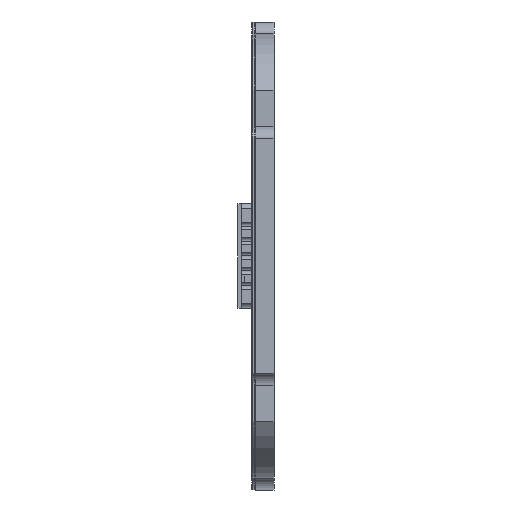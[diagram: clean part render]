
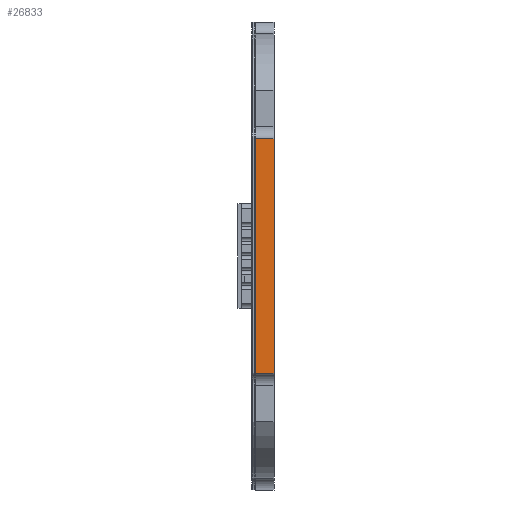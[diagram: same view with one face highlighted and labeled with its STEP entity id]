
A CAD part, left-side view. The second image highlights one B-rep face of the part: STEP entity #26833.
In plain terms, the highlighted planar face has unit normal (-1, 0, 0).
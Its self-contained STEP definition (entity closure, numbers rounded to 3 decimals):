
#3037 = AXIS2_PLACEMENT_3D ( 'NONE', #4963, #77893, #34396 ) ;
#3792 = EDGE_CURVE ( 'NONE', #46501, #80155, #48763, .T. ) ;
#4303 = CARTESIAN_POINT ( 'NONE',  ( -19.155, 1.255, 7.815 ) ) ;
#4331 = EDGE_CURVE ( 'NONE', #42579, #46501, #61146, .T. ) ;
#4963 = CARTESIAN_POINT ( 'NONE',  ( -19.155, 1.255, 7.815 ) ) ;
#8296 = FACE_OUTER_BOUND ( 'NONE', #64165, .T. ) ;
#10190 = DIRECTION ( 'NONE',  ( 0., 0., 1. ) ) ;
#12381 = VECTOR ( 'NONE', #55050, 1000. ) ;
#12632 = EDGE_CURVE ( 'NONE', #42579, #59010, #21925, .T. ) ;
#16914 = CARTESIAN_POINT ( 'NONE',  ( -19.155, 1.255, -7.815 ) ) ;
#21925 = LINE ( 'NONE', #16914, #58202 ) ;
#23251 = LINE ( 'NONE', #53615, #61802 ) ;
#24212 = DIRECTION ( 'NONE',  ( 0., -1., 0. ) ) ;
#25633 = CARTESIAN_POINT ( 'NONE',  ( -19.155, 1.255, 7.815 ) ) ;
#26833 = ADVANCED_FACE ( 'NONE', ( #8296 ), #70541, .F. ) ;
#29379 = VECTOR ( 'NONE', #54531, 1000. ) ;
#34396 = DIRECTION ( 'NONE',  ( 0., 0., -1. ) ) ;
#42579 = VERTEX_POINT ( 'NONE', #65584 ) ;
#43447 = EDGE_CURVE ( 'NONE', #59010, #80155, #23251, .T. ) ;
#44210 = ORIENTED_EDGE ( 'NONE', *, *, #3792, .F. ) ;
#46501 = VERTEX_POINT ( 'NONE', #52244 ) ;
#46577 = CARTESIAN_POINT ( 'NONE',  ( -19.155, 0., -7.815 ) ) ;
#48763 = LINE ( 'NONE', #25633, #29379 ) ;
#52244 = CARTESIAN_POINT ( 'NONE',  ( -19.155, 1.255, 7.815 ) ) ;
#53615 = CARTESIAN_POINT ( 'NONE',  ( -19.155, 0., 7.815 ) ) ;
#54531 = DIRECTION ( 'NONE',  ( 0., -1., 0. ) ) ;
#55050 = DIRECTION ( 'NONE',  ( 0., 0., 1. ) ) ;
#58202 = VECTOR ( 'NONE', #24212, 1000. ) ;
#59010 = VERTEX_POINT ( 'NONE', #46577 ) ;
#61146 = LINE ( 'NONE', #4303, #12381 ) ;
#61802 = VECTOR ( 'NONE', #10190, 1000. ) ;
#62543 = ORIENTED_EDGE ( 'NONE', *, *, #12632, .T. ) ;
#64165 = EDGE_LOOP ( 'NONE', ( #86540, #44210, #82115, #62543 ) ) ;
#65584 = CARTESIAN_POINT ( 'NONE',  ( -19.155, 1.255, -7.815 ) ) ;
#70541 = PLANE ( 'NONE',  #3037 ) ;
#77893 = DIRECTION ( 'NONE',  ( 1., 0., 0. ) ) ;
#80155 = VERTEX_POINT ( 'NONE', #88623 ) ;
#82115 = ORIENTED_EDGE ( 'NONE', *, *, #4331, .F. ) ;
#86540 = ORIENTED_EDGE ( 'NONE', *, *, #43447, .T. ) ;
#88623 = CARTESIAN_POINT ( 'NONE',  ( -19.155, 0., 7.815 ) ) ;
